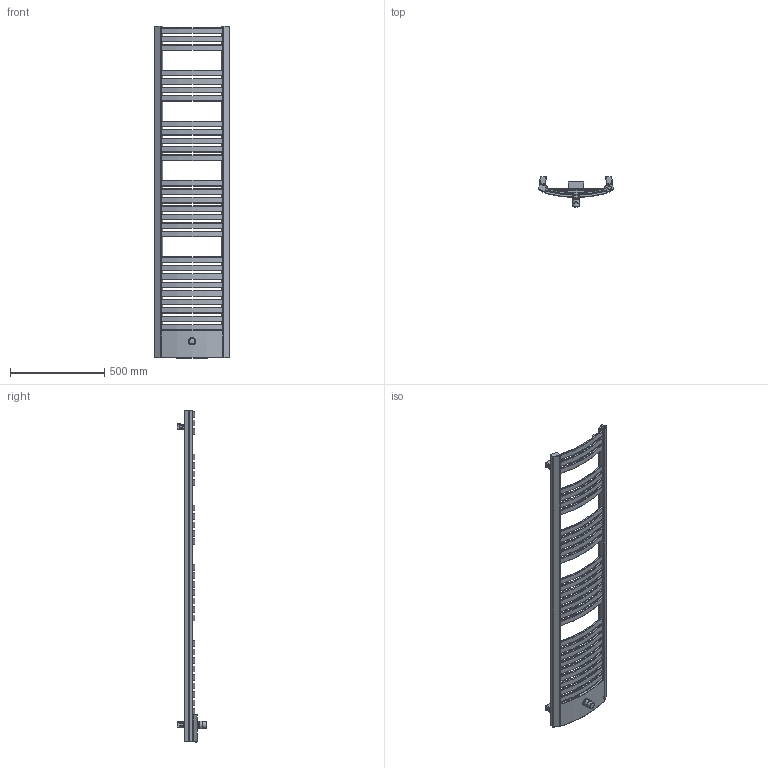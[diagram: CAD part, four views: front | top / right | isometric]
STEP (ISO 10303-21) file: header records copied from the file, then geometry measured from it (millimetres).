
FILE_DESCRIPTION((''),'2;1');
FILE_NAME('Z:\R\G\P\RGPH08 - Grzejnik Dexter pro\Work\Inventor\Dexter Pro v6.1\Marketing\STEP\DP-17-40-ZX.stp','2012-07-24T09:41:37',('PioRo'),(''),'Autodesk Inventor 2012','Autodesk Inventor 2012','');
FILE_SCHEMA(('AUTOMOTIVE_DESIGN { 1 0 10303 214 1 1 1 1 }'));
Length unit declared in the file: millimetre
Products named in the file (1): Część3
Bounding box: 399.76 x 158.23 x 1762 mm (x, y, z)
Volume: 7430613.8 mm3; surface area: 1395620 mm2
Topology: 1 solids, 3 shells, 675 faces, 1793 edges, 1145 vertices
Faces by surface type: plane 277, cylinder 207, torus 151, bspline 32, cone 6, sphere 2
Full cylindrical faces by diameter (mm): 7 x3, 18.631 x3, 32.4 x1, 33 x1, 34 x1, 35 x1, 36 x1, 36.4 x1, 36.6 x1, 37.2 x1, 40 x1
Entity records: 24274 total; most frequent: CARTESIAN_POINT 7069, ORIENTED_EDGE 3526, DIRECTION 3305, EDGE_CURVE 1763, AXIS2_PLACEMENT_3D 1226, VERTEX_POINT 1138, VECTOR 853, LINE 853
